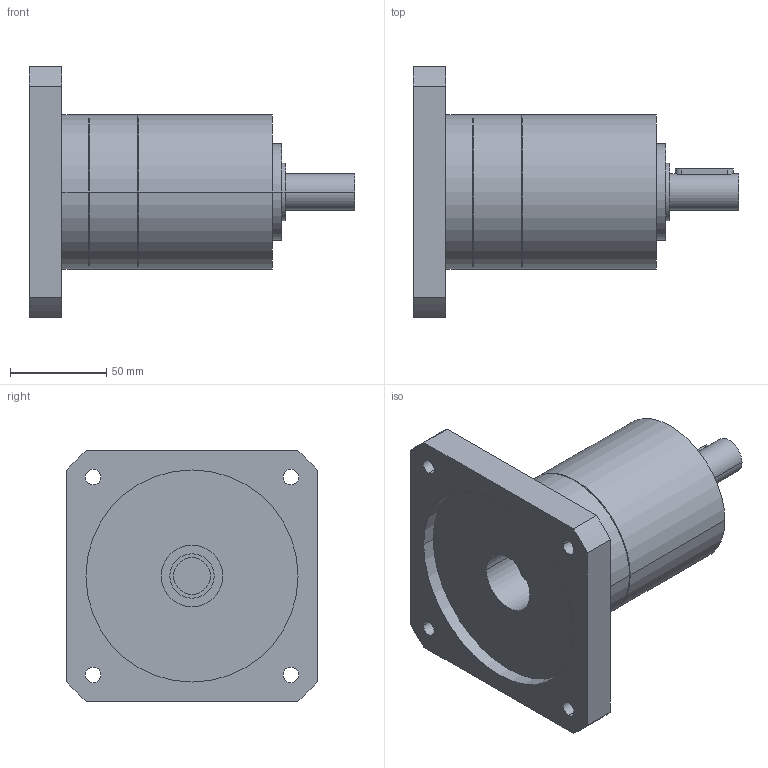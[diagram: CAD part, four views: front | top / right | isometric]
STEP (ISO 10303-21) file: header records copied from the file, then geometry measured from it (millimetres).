
FILE_DESCRIPTION(('CoCreate Modeling STEP Export'),'2;1');
FILE_NAME('GPR100_ig-3-4-5-6_19_B14_19_P18.stp','2014-08-26T10:08:45',(''),(''),'CoCreate Modeling STEP processor for AP214 (Solid Model)','CoCreate Modeling 16.00C 25-Feb-2009 (C) Parametric Technology GmbH','');
FILE_SCHEMA(('AUTOMOTIVE_DESIGN { 1 0 10303 214 1 1 1 1 }'));
Length unit declared in the file: millimetre
Products named in the file (2): GPR100_ig-3-4-5-6_19_B14_19_P18
Assembly tree (1 placements, depth 2):
  GPR100_ig-3-4-5-6_19_B14_19_P18
    GPR100_ig-3-4-5-6_19_B14_19_P18
Bounding box: 169 x 130 x 130 mm (x, y, z)
Volume: 754678.5 mm3; surface area: 83033.7 mm2
Topology: 1 solids, 1 shells, 73 faces, 197 edges, 139 vertices
Faces by surface type: cylinder 44, plane 23, cone 6
Entity records: 2019 total; most frequent: ORIENTED_EDGE 390, CARTESIAN_POINT 373, DIRECTION 272, EDGE_CURVE 195, VERTEX_POINT 139, AXIS2_PLACEMENT_3D 102, EDGE_LOOP 96, FACE_OUTER_BOUND 73
